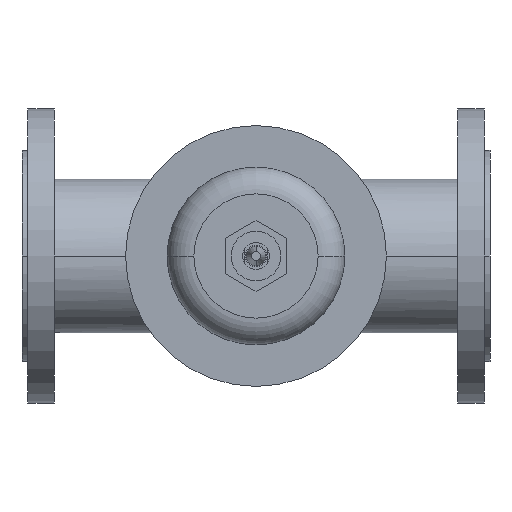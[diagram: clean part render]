
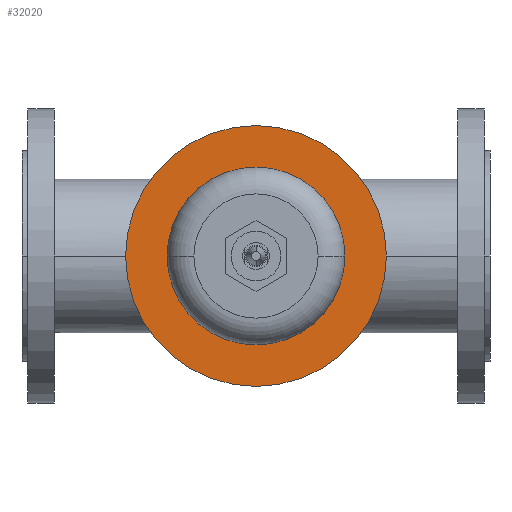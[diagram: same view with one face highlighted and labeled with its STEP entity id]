
A CAD part, front view. The second image highlights one B-rep face of the part: STEP entity #32020.
In plain terms, the highlighted planar face has unit normal (0, -1, 0).
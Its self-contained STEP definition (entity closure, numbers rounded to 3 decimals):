
#9000=CARTESIAN_POINT('',(241.5,-142.5,0.));
#9010=VERTEX_POINT('',#9000);
#9060=CARTESIAN_POINT('',(175.,-142.5,0.));
#9070=DIRECTION('',(0.,1.,0.));
#9080=DIRECTION('',(1.,0.,0.));
#9090=AXIS2_PLACEMENT_3D('',#9060,#9070,#9080);
#9100=CIRCLE('',#9090,66.5);
#9110=CARTESIAN_POINT('',(108.5,-142.5,0.));
#9120=VERTEX_POINT('',#9110);
#9130=EDGE_CURVE('',#9010,#9120,#9100,.T.);
#14640=CARTESIAN_POINT('',(272.5,-142.5,0.));
#14650=VERTEX_POINT('',#14640);
#14680=CARTESIAN_POINT('',(175.,-142.5,0.));
#14690=DIRECTION('',(0.,-1.,0.));
#14700=DIRECTION('',(1.,0.,0.));
#14710=AXIS2_PLACEMENT_3D('',#14680,#14690,#14700);
#14720=CIRCLE('',#14710,97.5);
#14730=CARTESIAN_POINT('',(77.5,-142.5,0.));
#14740=VERTEX_POINT('',#14730);
#14750=EDGE_CURVE('',#14650,#14740,#14720,.T.);
#31870=CARTESIAN_POINT('',(257.5,-142.5,0.));
#31880=DIRECTION('',(0.,-1.,0.));
#31890=DIRECTION('',(-1.,0.,0.));
#31900=AXIS2_PLACEMENT_3D('',#31870,#31880,#31890);
#31910=PLANE('',#31900);
#31920=ORIENTED_EDGE('',*,*,#14750,.T.);
#31930=EDGE_CURVE('',#14740,#14650,#14720,.T.);
#31940=ORIENTED_EDGE('',*,*,#31930,.T.);
#31950=EDGE_LOOP('',(#31940,#31920));
#31960=FACE_OUTER_BOUND('',#31950,.T.);
#31970=EDGE_CURVE('',#9120,#9010,#9100,.T.);
#31980=ORIENTED_EDGE('',*,*,#31970,.T.);
#31990=ORIENTED_EDGE('',*,*,#9130,.T.);
#32000=EDGE_LOOP('',(#31990,#31980));
#32010=FACE_BOUND('',#32000,.T.);
#32020=ADVANCED_FACE('',(#31960,#32010),#31910,.T.);
